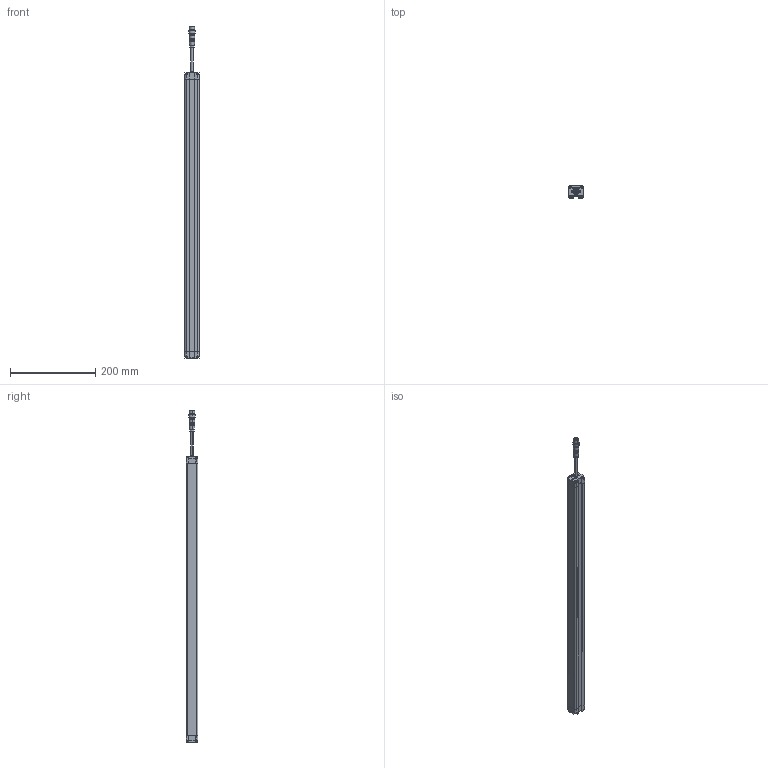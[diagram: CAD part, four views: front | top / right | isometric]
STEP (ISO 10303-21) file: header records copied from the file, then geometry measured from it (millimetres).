
FILE_DESCRIPTION((''),'2;1');
FILE_NAME('SMT1-CGQ_ASM','2025-08-08T08:28:31',('Administrator'),(''),'CREO PARAMETRIC BY PTC INC, 2016510','CREO PARAMETRIC BY PTC INC, 2016510','');
FILE_SCHEMA(('CONFIG_CONTROL_DESIGN'));
Length unit declared in the file: millimetre
Products named in the file (7): SMT1-XINGCAI-V1; SMT1-SDG-V1; SMT1-XDG-V1; M12-CHATOU; ST3X18; CT4-LVGUANGBAN; SMT1-CGQ_ASM
Assembly tree (13 placements, depth 2):
  SMT1-CGQ_ASM
    SMT1-XINGCAI-V1
    SMT1-SDG-V1
    SMT1-XDG-V1
    M12-CHATOU
    ST3X18  x8
    CT4-LVGUANGBAN
Bounding box: 33 x 28.02 x 779.5 mm (x, y, z)
Volume: 522332.9 mm3; surface area: 170894.6 mm2
Topology: 13 solids, 13 shells, 712 faces, 1868 edges, 1200 vertices
Faces by surface type: plane 382, cylinder 184, extrusion 86, sphere 32, cone 20, bspline 8
Entity records: 18128 total; most frequent: CARTESIAN_POINT 4347, ORIENTED_EDGE 2916, DIRECTION 2580, EDGE_CURVE 1458, VECTOR 1036, VERTEX_POINT 955, LINE 950, AXIS2_PLACEMENT_3D 772
